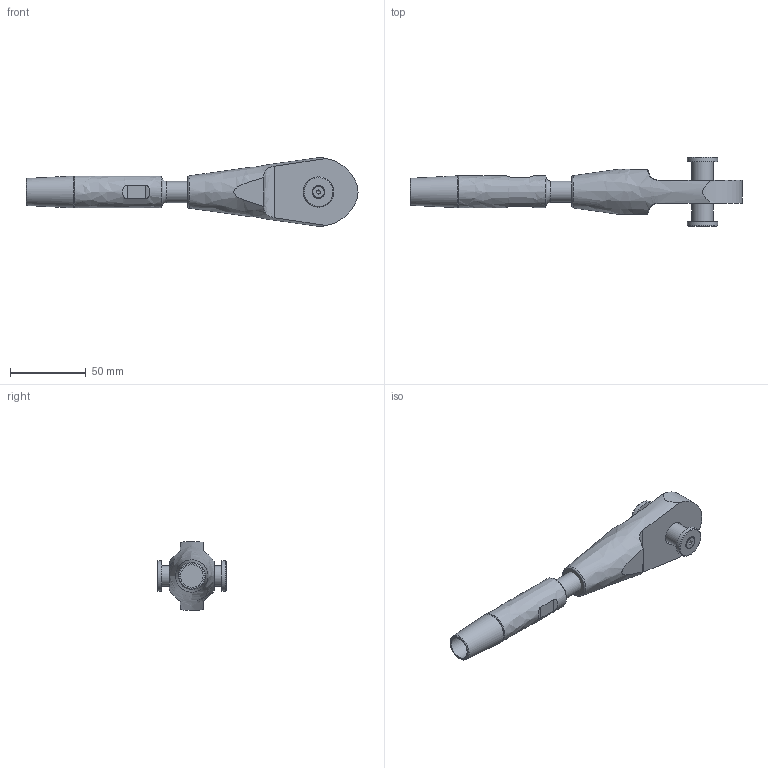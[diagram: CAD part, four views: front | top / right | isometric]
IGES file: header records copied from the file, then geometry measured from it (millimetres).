
Global section: file name: 520-014-OES-ADA; native system: Autodesk Inventor 2020; preprocessor: unknown; author: Administrator; date: 20201007.153301; units: millimetre
Bounding box: 218.5 x 45.78 x 45.17 mm (x, y, z)
Volume: 103812.2 mm3; surface area: 25902.5 mm2
Topology: 6 solids, 6 shells, 63 faces, 152 edges, 106 vertices
Faces by surface type: bspline 63
